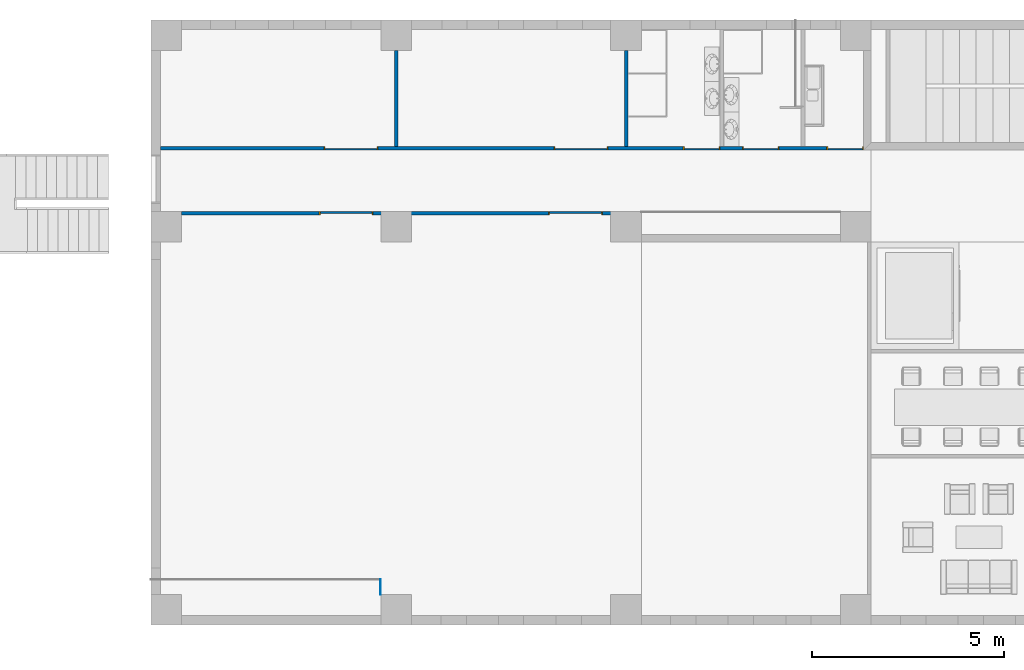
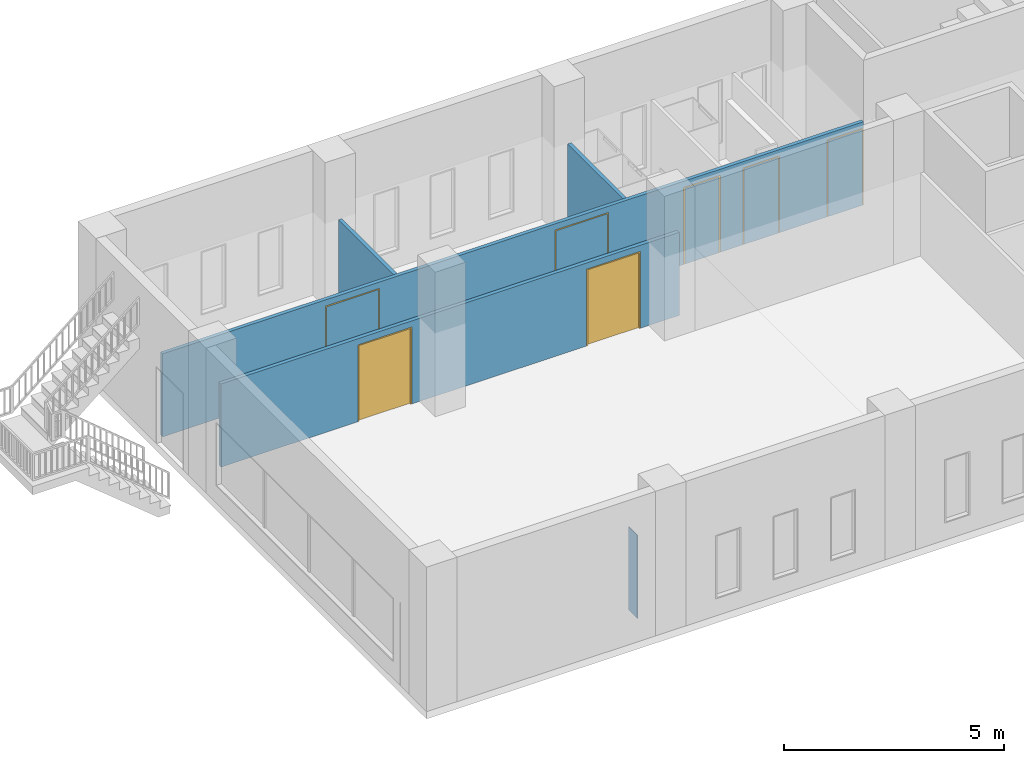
# One storey, part 2 of 17: 7 doors, 5 walls, 7 openings.
"""IFC2X3 building model written with IfcOpenShell, lengths in millimetres."""

import ifcopenshell
import ifcopenshell.guid

model = None  # the IFC model being written
_history = None  # IfcOwnerHistory: only IFC2X3 demands one
_inside = {}  # id of a spatial element -> (the spatial element, [elements in it])
_under = {}  # id of a project, library or spatial element -> (it, [spatial elements below it])
_declared = {}  # id of a project -> (the project, [libraries it declares])
_typed = {}  # id of a type object -> (the type object, [elements of that type])
_made_of = {}  # id of a material, layer set ... -> (it, [elements and type objects made of it])


def new_model(schema):
    """Start an empty IFC model of exactly this schema.

    Asked for "IFC4X3", IfcOpenShell would pick the latest addendum, in which some entities
    have other attributes; the version numbers below select the first issue.
    IFC2X3 requires an IfcOwnerHistory on every rooted entity: one is made here for all.
    """
    global model, _history
    if schema == "IFC4X3":
        model = ifcopenshell.file(schema_version=(4, 3, 0, 0))
    else:
        model = ifcopenshell.file(schema=schema)
    _inside.clear()
    _under.clear()
    _declared.clear()
    _typed.clear()
    _made_of.clear()
    _history = None
    if model.schema == "IFC2X3":
        org = make("IfcOrganization", Name="unknown")
        user = make(
            "IfcPersonAndOrganization",
            ThePerson=make("IfcPerson", FamilyName="unknown"),
            TheOrganization=org,
        )
        app = make(
            "IfcApplication",
            ApplicationDeveloper=org,
            Version="unknown",
            ApplicationFullName="unknown",
            ApplicationIdentifier="unknown",
        )
        _history = make(
            "IfcOwnerHistory",
            OwningUser=user,
            OwningApplication=app,
            ChangeAction="ADDED",
            CreationDate=0,
        )
    return model


def make(cls, **values):
    """One entity of the class cls with the attributes given. An attribute that is None is left unset."""
    return model.create_entity(
        cls, **{name: value for name, value in values.items() if value is not None}
    )


def entity(cls, *values):
    """Any entity or typed value of the class cls, its attributes in the order of the schema. None: left unset."""
    e = model.create_entity(cls)
    for i, value in enumerate(values):
        if value is not None:
            e[i] = value
    return e


def rooted(cls, **values):
    """An entity with a GlobalId (a new one), such as an element, a storey or a relation."""
    return make(cls, GlobalId=ifcopenshell.guid.new(), OwnerHistory=_history, **values)


def si_unit(unit_type, name, prefix=None):
    """IfcSIUnit, for example si_unit("LENGTHUNIT", "METRE", prefix="MILLI")."""
    return make("IfcSIUnit", UnitType=unit_type, Prefix=prefix, Name=name)


def converted_unit(unit_type, name, factor, base, dimensions=None, offset=None):
    """IfcConversionBasedUnit, such as the inch: factor (a typed value) times the base unit."""
    return make(
        "IfcConversionBasedUnit"
        if offset is None
        else "IfcConversionBasedUnitWithOffset",
        ConversionOffset=offset,
        Dimensions=None
        if dimensions is None
        else entity("IfcDimensionalExponents", *dimensions),
        UnitType=unit_type,
        Name=name,
        ConversionFactor=make(
            "IfcMeasureWithUnit", ValueComponent=factor, UnitComponent=base
        ),
    )


def assignment(units):
    """IfcUnitAssignment: the units of a project."""
    return None if units is None else make("IfcUnitAssignment", Units=units)


def point(xyz):
    """IfcCartesianPoint."""
    return None if xyz is None else make("IfcCartesianPoint", Coordinates=xyz)


def direction(xyz):
    """IfcDirection."""
    return None if xyz is None else make("IfcDirection", DirectionRatios=xyz)


def frame(location, z_axis=None, x_axis=None):
    """IfcAxis2Placement3D, a coordinate frame: its origin and axes. An axis left out is left unset."""
    return make(
        "IfcAxis2Placement3D",
        Location=point(location),
        Axis=direction(z_axis),
        RefDirection=direction(x_axis),
    )


def frame_2d(location, x_axis=None):
    """IfcAxis2Placement2D, a coordinate frame in the plane: its origin and x axis."""
    return make(
        "IfcAxis2Placement2D", Location=point(location), RefDirection=direction(x_axis)
    )


def origin_with_axes():
    """The frame at (0, 0, 0) with the z axis (0, 0, 1) and the x axis (1, 0, 0) written out."""
    return frame((0.0, 0.0, 0.0), z_axis=(0.0, 0.0, 1.0), x_axis=(1.0, 0.0, 0.0))


def origin_2d_with_axis():
    """The frame at (0, 0) in the plane with the x axis (1, 0) written out."""
    return frame_2d((0.0, 0.0), x_axis=(1.0, 0.0))


def place(relative_to, where):
    """IfcLocalPlacement: puts the frame where relative to a parent placement (None: the world)."""
    return make(
        "IfcLocalPlacement", PlacementRelTo=relative_to, RelativePlacement=where
    )


def context(
    kind, dimensions, precision=None, world=None, true_north=None, identifier=None
):
    """IfcGeometricRepresentationContext, for example the 3D "Model" context."""
    return make(
        "IfcGeometricRepresentationContext",
        ContextIdentifier=identifier,
        ContextType=kind,
        CoordinateSpaceDimension=dimensions,
        Precision=precision,
        WorldCoordinateSystem=world,
        TrueNorth=true_north,
    )


def project(units=None, contexts=None):
    """IfcProject with its units and contexts."""
    return rooted(
        "IfcProject",
        Name="project",
        RepresentationContexts=contexts,
        UnitsInContext=assignment(units),
    )


def spatial(cls, under=None, at=None, **own):
    """A site, building, storey or space (cls), placed at a placement, below another one or the project."""
    s = rooted(cls, ObjectPlacement=at, **own)
    if under is not None:
        _under.setdefault(under.id(), (under, []))[1].append(s)
    return s


def polyline(points):
    """IfcPolyline through the points."""
    return make("IfcPolyline", Points=[point(p) for p in points])


def profile(cls, at=None, kind="AREA", **sizes):
    """A parametric profile (cls). Its sizes go by their IFC names, for example OverallWidth=200.0."""
    return make(cls, ProfileType=kind, Position=at, **sizes)


def rectangle(**sizes):
    """IfcRectangleProfileDef."""
    return profile("IfcRectangleProfileDef", **sizes)


def outline(outer, holes=None, kind="AREA"):
    """IfcArbitraryClosedProfileDef: a profile drawn as a closed curve; with holes, ...WithVoids."""
    if holes is None:
        return make("IfcArbitraryClosedProfileDef", ProfileType=kind, OuterCurve=outer)
    return make(
        "IfcArbitraryProfileDefWithVoids",
        ProfileType=kind,
        OuterCurve=outer,
        InnerCurves=holes,
    )


def extrude(swept, where, along, depth):
    """IfcExtrudedAreaSolid: the profile swept, set in the frame where, extruded along a direction by depth."""
    return make(
        "IfcExtrudedAreaSolid",
        SweptArea=swept,
        Position=where,
        ExtrudedDirection=direction(along),
        Depth=depth,
    )


def faces_of(points, faces, orient=None, outer=None):
    """IfcFace entities. A face is a list of loops; a loop is a list of indices into points, from 0.

    orient and outer hold one flag for each loop. By default every Orientation is true, the
    first loop of a face is its IfcFaceOuterBound and the others are IfcFaceBound.
    """
    made = []
    for i, loops in enumerate(faces):
        bounds = []
        for j, loop in enumerate(loops):
            is_outer = j == 0 if outer is None else outer[i][j]
            bounds.append(
                make(
                    "IfcFaceOuterBound" if is_outer else "IfcFaceBound",
                    Bound=make("IfcPolyLoop", Polygon=[points[k] for k in loop]),
                    Orientation=True if orient is None else orient[i][j],
                )
            )
        made.append(make("IfcFace", Bounds=bounds))
    return made


def open_shell(faces, orient=None, outer=None):
    """The faces of one IfcOpenShell. surface_model builds it on its shared points."""
    return ("IfcOpenShell", faces, orient, outer)


def surface_model(cls, points, shells):
    """IfcFaceBasedSurfaceModel or IfcShellBasedSurfaceModel (cls): surfaces that need not close."""
    shared = [point(p) for p in points]
    made = [make(c, CfsFaces=faces_of(shared, fs, o, b)) for c, fs, o, b in shells]
    if cls == "IfcFaceBasedSurfaceModel":
        return make(cls, FbsmFaces=made)
    return make(cls, SbsmBoundary=made)


def shape(context_of_items, identifier, shape_type, items):
    """IfcShapeRepresentation: the items that make up one representation, for example the "Body"."""
    return make(
        "IfcShapeRepresentation",
        ContextOfItems=context_of_items,
        RepresentationIdentifier=identifier,
        RepresentationType=shape_type,
        Items=items,
    )


def material(Name=None, Category=None):
    """IfcMaterial."""
    return make("IfcMaterial", Name=Name, Category=Category)


def layer(
    of_material, thickness, ventilated=None, Name=None, Category=None, Priority=None
):
    """IfcMaterialLayer: one layer of a wall or slab, of a material (None: an air gap)."""
    return make(
        "IfcMaterialLayer",
        Material=of_material,
        LayerThickness=thickness,
        IsVentilated=ventilated,
        Name=Name,
        Category=Category,
        Priority=Priority,
    )


def layer_set(layers, Name=None):
    """IfcMaterialLayerSet."""
    return make("IfcMaterialLayerSet", MaterialLayers=layers, LayerSetName=Name)


def layer_usage(for_layer_set, set_direction, sense, offset, extent=None):
    """IfcMaterialLayerSetUsage: how a layer set lies in its element."""
    return make(
        "IfcMaterialLayerSetUsage",
        ForLayerSet=for_layer_set,
        LayerSetDirection=set_direction,
        DirectionSense=sense,
        OffsetFromReferenceLine=offset,
        ReferenceExtent=extent,
    )


def made_of(thing, what):
    """Note that an element or type object is made of a material, layer set ...; save() writes the relation."""
    if what is not None:
        _made_of.setdefault(what.id(), (what, []))[1].append(thing)
    return thing


def type_object(cls, material=None, **own):
    """A type object (cls), such as IfcWallType, which elements share."""
    return made_of(rooted(cls, **own), material)


def element(
    cls,
    number,
    at=None,
    inside=None,
    cuts=None,
    type_object=None,
    material=None,
    context=None,
    identifier="Body",
    shape_type=None,
    held_by="IfcProductDefinitionShape",
    body=None,
    shapes=None,
    **own,
):
    """One element of the class cls, such as IfcWall. Its Tag is "e" and its number.

    at: its placement. inside: the storey or other place that contains it. cuts: it is an
    opening in that element (IfcRelVoidsElement). A single representation is given by context,
    identifier, shape_type and body (its items); several are given by shapes. held_by: the class
    of the entity that holds the representations. save() writes the other relations.
    """
    e = rooted(cls, Tag="e%d" % number, ObjectPlacement=at, **own)
    if body is not None:
        shapes = [shape(context, identifier, shape_type, body)]
    if shapes is not None:
        e.Representation = make(held_by, Representations=shapes)
    if inside is not None:
        _inside.setdefault(inside.id(), (inside, []))[1].append(e)
    if cuts is not None:
        rooted(
            "IfcRelVoidsElement", RelatingBuildingElement=cuts, RelatedOpeningElement=e
        )
    if type_object is not None:
        _typed.setdefault(type_object.id(), (type_object, []))[1].append(e)
    return made_of(e, material)


def fill(opening, filler):
    """IfcRelFillsElement: the door or window that sits in an opening."""
    return rooted(
        "IfcRelFillsElement",
        RelatingOpeningElement=opening,
        RelatedBuildingElement=filler,
    )


def aggregate(whole, parts):
    """IfcRelAggregates: a whole, such as a stair, and the parts it consists of."""
    return rooted("IfcRelAggregates", RelatingObject=whole, RelatedObjects=parts)


def save(model, path):
    """Write the relations noted so far, then the file.

    IfcRelAggregates (storeys below a building ...), IfcRelContainedInSpatialStructure (elements
    in a storey), IfcRelDefinesByType, IfcRelAssociatesMaterial and IfcRelDeclares: one each for
    every whole, place, type object, material and project.
    """
    for whole, parts in _under.values():
        aggregate(whole, parts)
    for where, things in _inside.values():
        rooted(
            "IfcRelContainedInSpatialStructure",
            RelatedElements=things,
            RelatingStructure=where,
        )
    for kind, things in _typed.values():
        rooted("IfcRelDefinesByType", RelatedObjects=things, RelatingType=kind)
    for what, things in _made_of.values():
        rooted("IfcRelAssociatesMaterial", RelatedObjects=things, RelatingMaterial=what)
    for by, libraries in _declared.values():
        rooted("IfcRelDeclares", RelatingContext=by, RelatedDefinitions=libraries)
    model.write(path)


model = new_model("IFC2X3")

# Units and contexts
model_context = context("Model", 3, precision=1e-05, world=origin_with_axes(), true_north=direction((0.0, 1.0)))
ifc_project = project(units=[si_unit("LENGTHUNIT", "METRE", prefix="MILLI"), si_unit("AREAUNIT", "SQUARE_METRE"), si_unit("VOLUMEUNIT", "CUBIC_METRE"), converted_unit("PLANEANGLEUNIT", "DEGREE", entity("IfcPlaneAngleMeasure", 0.017453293), si_unit("PLANEANGLEUNIT", "RADIAN"), dimensions=[0, 0, 0, 0, 0, 0, 0]), si_unit("SOLIDANGLEUNIT", "STERADIAN"), si_unit("MASSUNIT", "GRAM"), si_unit("TIMEUNIT", "SECOND"), si_unit("THERMODYNAMICTEMPERATUREUNIT", "DEGREE_CELSIUS"), si_unit("LUMINOUSINTENSITYUNIT", "LUMEN")], contexts=[model_context])

# Site, building, storey
site_placement = place(None, origin_with_axes())
site = spatial("IfcSite", under=ifc_project, at=site_placement, Name="\x83T\x83C\x83g", CompositionType="ELEMENT")
building_placement = place(site_placement, origin_with_axes())
building = spatial("IfcBuilding", under=site, at=building_placement, Name="Daitec-Sample 201208", CompositionType="ELEMENT")
storey_placement = place(building_placement, origin_with_axes())
storey = spatial("IfcBuildingStorey", under=building, at=storey_placement, Name="1F", CompositionType="ELEMENT", Elevation=0.0)

# Walls
ifc_material_1 = material(Name="\x83v\x83\x89\x83X\x83^\x81[\x83{\x81[\x83h")
ifc_layer_1 = layer(ifc_material_1, 15.0, ventilated="UNKNOWN")
ifc_material_2 = material(Name="00_LGS")
ifc_layer_2 = layer(ifc_material_2, 65.0, ventilated="UNKNOWN")
ifc_layer_3 = layer(ifc_material_1, 15.0, ventilated="UNKNOWN")
ifc_layer_set_1 = layer_set([ifc_layer_1, ifc_layer_2, ifc_layer_3])
ifc_layer_usage_1 = layer_usage(ifc_layer_set_1, "AXIS2", "POSITIVE", 0.0)
wall_type_1 = type_object("IfcWallType", PredefinedType="NOTDEFINED")
wall_1_placement = place(storey_placement, frame((18455.75, 23000.0, 0.0), z_axis=(0.0, 0.0, 1.0), x_axis=(0.0, -1.0, 0.0)))
element("IfcWallStandardCase", 1, at=wall_1_placement, inside=storey, type_object=wall_type_1, material=ifc_layer_usage_1, Name="W5", context=model_context, shape_type="SweptSolid", body=[
    extrude(outline(polyline([(0.0, 0.0), (2504.8739, 0.0), (2504.8739, 95.0), (0.0, 95.0), (0.0, 0.0)])), origin_with_axes(), (0.0, 0.0, 1.0), 2300.0),
])
ifc_layer_usage_2 = layer_usage(ifc_layer_set_1, "AXIS2", "NEGATIVE", 47.5)
wall_2_placement = place(storey_placement, frame((12500.0, 23000.0, 0.0), z_axis=(0.0, 0.0, 1.0), x_axis=(0.0, -1.0, 0.0)))
element("IfcWallStandardCase", 2, at=wall_2_placement, inside=storey, type_object=wall_type_1, material=ifc_layer_usage_2, Name="W5", context=model_context, shape_type="SweptSolid", body=[
    extrude(outline(polyline([(0.0, -47.5), (2504.8739, -47.5), (2504.8739, 47.5), (0.0, 47.5), (0.0, -47.5)])), origin_with_axes(), (0.0, 0.0, 1.0), 2300.0),
])

# Wall, openings, doors
ifc_layer_usage_3 = layer_usage(ifc_layer_set_1, "AXIS2", "NEGATIVE", 0.0)
wall_3_placement = place(storey_placement, frame((6900.0, 18800.0, 0.0), z_axis=(0.0, 0.0, 1.0), x_axis=(1.0, 0.0, 0.0)))
wall_3 = element("IfcWallStandardCase", 3, at=wall_3_placement, inside=storey, type_object=wall_type_1, material=ifc_layer_usage_3, Name="W0", context=model_context, shape_type="SweptSolid", body=[
    extrude(outline(polyline([(0.0, -95.0), (12000.0, -95.0), (12000.0, 0.0), (0.0, 0.0), (0.0, -95.0)])), origin_with_axes(), (0.0, 0.0, 1.0), 2300.0),
])
opening_1_placement = place(wall_3_placement, frame((10280.415, 0.0, 0.0), z_axis=(0.0, 0.0, 1.0), x_axis=(1.0, 0.0, 0.0)))
opening_1 = element("IfcOpeningElement", 4, at=opening_1_placement, cuts=wall_3, context=model_context, shape_type="SweptSolid", body=[
    extrude(rectangle(XDim=1410.0, YDim=2130.0, at=origin_2d_with_axis()), frame((0.0, -46.5, 1065.0), z_axis=(0.0, -1.0, 0.0), x_axis=(1.0, 0.0, 0.0)), (0.0, 0.0, 1.0), 97.0),
])
opening_2_placement = place(wall_3_placement, frame((4294.0058, 0.0, 0.0), z_axis=(0.0, 0.0, 1.0), x_axis=(1.0, 0.0, 0.0)))
opening_2 = element("IfcOpeningElement", 5, at=opening_2_placement, cuts=wall_3, context=model_context, shape_type="SweptSolid", body=[
    extrude(rectangle(XDim=1410.0, YDim=2130.0, at=origin_2d_with_axis()), frame((0.0, -46.5, 1065.0), z_axis=(0.0, -1.0, 0.0), x_axis=(1.0, 0.0, 0.0)), (0.0, 0.0, 1.0), 97.0),
])
ifc_material_3 = material(Name="\x94w\x8ci")
door_style_1 = type_object("IfcDoorStyle", Name="\x90e\x8eq\x8aJ\x82«\x8cË_JX5", ConstructionType="NOTDEFINED", OperationType="NOTDEFINED", ParameterTakesPrecedence=False, Sizeable=False)
door_1_placement = place(opening_1_placement, frame((-675.0, 0.0, 0.0), z_axis=(0.0, 0.0, 1.0), x_axis=(1.0, 0.0, 0.0)))
door_1 = element("IfcDoor", 6, at=door_1_placement, inside=storey, type_object=door_style_1, material=ifc_material_3, Name="SD7", OverallHeight=2100.0, OverallWidth=1350.0, context=model_context, shape_type="SurfaceModel", body=[
    surface_model("IfcShellBasedSurfaceModel", [(900.0, -47.5, 0.0), (900.0, -47.5, 2100.0), (0.0, -47.5, 2100.0), (0.0, -47.5, 0.0)], [open_shell([[[0, 1, 2, 3]]])]),
    surface_model("IfcShellBasedSurfaceModel", [(900.0, -47.5, 0.0), (1350.0, -47.5, 0.0), (1350.0, -47.5, 2100.0), (900.0, -47.5, 2100.0)], [open_shell([[[0, 1, 2, 3]]])]),
    surface_model("IfcShellBasedSurfaceModel", [(1380.0, -95.0, 0.0), (1380.0, -95.0, 2130.0), (-30.0, -95.0, 2130.0), (-30.0, -95.0, 0.0), (0.0, -95.0, 0.0), (0.0, -95.0, 2100.0), (1350.0, -95.0, 2100.0), (1350.0, -95.0, 0.0)], [open_shell([[[0, 1, 2, 3, 4, 5, 6, 7]]])]),
    surface_model("IfcShellBasedSurfaceModel", [(1380.0, 0.0, 0.0), (1380.0, 0.0, 2130.0), (-30.0, 0.0, 2130.0), (-30.0, 0.0, 0.0), (0.0, 0.0, 0.0), (0.0, 0.0, 2100.0), (1350.0, 0.0, 2100.0), (1350.0, 0.0, 0.0)], [open_shell([[[0, 1, 2, 3, 4, 5, 6, 7]]])]),
    surface_model("IfcShellBasedSurfaceModel", [(1350.0, -95.0, 0.0), (1350.0, -95.0, 2100.0), (1350.0, 0.0, 2100.0), (1350.0, 0.0, 0.0), (0.0, -95.0, 2100.0), (0.0, 0.0, 2100.0), (1380.0, -95.0, 0.0), (1380.0, 0.0, 0.0), (0.0, -95.0, 0.0), (0.0, 0.0, 0.0), (1380.0, -95.0, 2130.0), (1380.0, 0.0, 2130.0), (-30.0, -95.0, 0.0), (-30.0, 0.0, 0.0), (-30.0, -95.0, 2130.0), (-30.0, 0.0, 2130.0)], [open_shell([[[0, 1, 2, 3]], [[1, 4, 5, 2]], [[6, 0, 3, 7]], [[4, 8, 9, 5]], [[10, 6, 7, 11]], [[8, 12, 13, 9]], [[14, 10, 11, 15]], [[12, 14, 15, 13]]])]),
])
fill(opening_1, door_1)
door_2_placement = place(opening_2_placement, frame((-675.0, 0.0, 0.0), z_axis=(0.0, 0.0, 1.0), x_axis=(1.0, 0.0, 0.0)))
door_2 = element("IfcDoor", 7, at=door_2_placement, inside=storey, type_object=door_style_1, material=ifc_material_3, Name="SD8", OverallHeight=2100.0, OverallWidth=1350.0, context=model_context, shape_type="SurfaceModel", body=[
    surface_model("IfcShellBasedSurfaceModel", [(900.0, -47.5, 0.0), (900.0, -47.5, 2100.0), (0.0, -47.5, 2100.0), (0.0, -47.5, 0.0)], [open_shell([[[0, 1, 2, 3]]])]),
    surface_model("IfcShellBasedSurfaceModel", [(900.0, -47.5, 0.0), (1350.0, -47.5, 0.0), (1350.0, -47.5, 2100.0), (900.0, -47.5, 2100.0)], [open_shell([[[0, 1, 2, 3]]])]),
    surface_model("IfcShellBasedSurfaceModel", [(1380.0, -95.0, 0.0), (1380.0, -95.0, 2130.0), (-30.0, -95.0, 2130.0), (-30.0, -95.0, 0.0), (0.0, -95.0, 0.0), (0.0, -95.0, 2100.0), (1350.0, -95.0, 2100.0), (1350.0, -95.0, 0.0)], [open_shell([[[0, 1, 2, 3, 4, 5, 6, 7]]])]),
    surface_model("IfcShellBasedSurfaceModel", [(1380.0, 0.0, 0.0), (1380.0, 0.0, 2130.0), (-30.0, 0.0, 2130.0), (-30.0, 0.0, 0.0), (0.0, 0.0, 0.0), (0.0, 0.0, 2100.0), (1350.0, 0.0, 2100.0), (1350.0, 0.0, 0.0)], [open_shell([[[0, 1, 2, 3, 4, 5, 6, 7]]])]),
    surface_model("IfcShellBasedSurfaceModel", [(1350.0, -95.0, 0.0), (1350.0, -95.0, 2100.0), (1350.0, 0.0, 2100.0), (1350.0, 0.0, 0.0), (0.0, -95.0, 2100.0), (0.0, 0.0, 2100.0), (1380.0, -95.0, 0.0), (1380.0, 0.0, 0.0), (0.0, -95.0, 0.0), (0.0, 0.0, 0.0), (1380.0, -95.0, 2130.0), (1380.0, 0.0, 2130.0), (-30.0, -95.0, 0.0), (-30.0, 0.0, 0.0), (-30.0, -95.0, 2130.0), (-30.0, 0.0, 2130.0)], [open_shell([[[0, 1, 2, 3]], [[1, 4, 5, 2]], [[6, 0, 3, 7]], [[4, 8, 9, 5]], [[10, 6, 7, 11]], [[8, 12, 13, 9]], [[14, 10, 11, 15]], [[12, 14, 15, 13]]])]),
])
fill(opening_2, door_2)

ifc_layer_usage_4 = layer_usage(ifc_layer_set_1, "AXIS2", "NEGATIVE", 47.5)
wall_4_placement = place(storey_placement, frame((6100.0, 20447.626, 0.0), z_axis=(0.0, 0.0, 1.0), x_axis=(1.0, 0.0, 0.0)))
wall_4 = element("IfcWallStandardCase", 8, at=wall_4_placement, inside=storey, type_object=wall_type_1, material=ifc_layer_usage_4, Name="W3", context=model_context, shape_type="SweptSolid", body=[
    extrude(outline(polyline([(250.0, -47.5), (18600.0, -47.5), (18600.0, 47.5), (250.0, 47.5), (250.0, -47.5)])), origin_with_axes(), (0.0, 0.0, 1.0), 2300.0),
])
opening_3_placement = place(wall_4_placement, frame((15921.338, 0.0, 0.0), z_axis=(0.0, 0.0, 1.0), x_axis=(1.0, 0.0, 0.0)))
opening_3 = element("IfcOpeningElement", 9, at=opening_3_placement, cuts=wall_4, context=model_context, shape_type="SweptSolid", body=[
    extrude(rectangle(XDim=960.0, YDim=2130.0, at=origin_2d_with_axis()), frame((0.0, 96.0, 1065.0), z_axis=(0.0, -1.0, 0.0), x_axis=(1.0, 0.0, 0.0)), (0.0, 0.0, 1.0), 97.0),
])
opening_4_placement = place(wall_4_placement, frame((14373.782, 0.0, 0.0), z_axis=(0.0, 0.0, 1.0), x_axis=(1.0, 0.0, 0.0)))
opening_4 = element("IfcOpeningElement", 10, at=opening_4_placement, cuts=wall_4, context=model_context, shape_type="SweptSolid", body=[
    extrude(rectangle(XDim=960.0, YDim=2130.0, at=origin_2d_with_axis()), frame((0.0, 96.0, 1065.0), z_axis=(0.0, -1.0, 0.0), x_axis=(1.0, 0.0, 0.0)), (0.0, 0.0, 1.0), 97.0),
])
opening_5_placement = place(wall_4_placement, frame((11223.832, 0.0, 0.0), z_axis=(0.0, 0.0, 1.0), x_axis=(1.0, 0.0, 0.0)))
opening_5 = element("IfcOpeningElement", 11, at=opening_5_placement, cuts=wall_4, context=model_context, shape_type="SweptSolid", body=[
    extrude(rectangle(XDim=1410.0, YDim=2130.0, at=origin_2d_with_axis()), frame((0.0, 96.0, 1065.0), z_axis=(0.0, -1.0, 0.0), x_axis=(1.0, 0.0, 0.0)), (0.0, 0.0, 1.0), 97.0),
])
opening_6_placement = place(wall_4_placement, frame((5220.7883, 0.0, 0.0), z_axis=(0.0, 0.0, 1.0), x_axis=(1.0, 0.0, 0.0)))
opening_6 = element("IfcOpeningElement", 12, at=opening_6_placement, cuts=wall_4, context=model_context, shape_type="SweptSolid", body=[
    extrude(rectangle(XDim=1410.0, YDim=2130.0, at=origin_2d_with_axis()), frame((0.0, 96.0, 1065.0), z_axis=(0.0, -1.0, 0.0), x_axis=(1.0, 0.0, 0.0)), (0.0, 0.0, 1.0), 97.0),
])
opening_7_placement = place(wall_4_placement, frame((18120.013, 0.0, 0.0), z_axis=(0.0, 0.0, 1.0), x_axis=(1.0, 0.0, 0.0)))
opening_7 = element("IfcOpeningElement", 13, at=opening_7_placement, cuts=wall_4, context=model_context, shape_type="SweptSolid", body=[
    extrude(rectangle(XDim=960.0, YDim=2130.0, at=origin_2d_with_axis()), frame((0.0, 96.0, 1065.0), z_axis=(0.0, -1.0, 0.0), x_axis=(1.0, 0.0, 0.0)), (0.0, 0.0, 1.0), 97.0),
])
door_3_placement = place(opening_5_placement, frame((675.0, 0.0, 0.0), z_axis=(0.0, 0.0, 1.0), x_axis=(-1.0, 0.0, 0.0)))
door_3 = element("IfcDoor", 14, at=door_3_placement, inside=storey, type_object=door_style_1, material=ifc_material_3, Name="SD9", OverallHeight=2100.0, OverallWidth=1350.0, context=model_context, shape_type="SurfaceModel", body=[
    surface_model("IfcShellBasedSurfaceModel", [(450.0, 0.0, 0.0), (1350.0, 0.0, 0.0), (1350.0, 0.0, 2100.0), (450.0, 0.0, 2100.0)], [open_shell([[[0, 1, 2, 3]]])]),
    surface_model("IfcShellBasedSurfaceModel", [(450.0, 0.0, 0.0), (450.0, 0.0, 2100.0), (0.0, 0.0, 2100.0), (0.0, 0.0, 0.0)], [open_shell([[[0, 1, 2, 3]]])]),
    surface_model("IfcShellBasedSurfaceModel", [(-30.0, -47.5, 0.0), (0.0, -47.5, 0.0), (0.0, -47.5, 2100.0), (1350.0, -47.5, 2100.0), (1350.0, -47.5, 0.0), (1380.0, -47.5, 0.0), (1380.0, -47.5, 2130.0), (-30.0, -47.5, 2130.0)], [open_shell([[[0, 1, 2, 3, 4, 5, 6, 7]]])]),
    surface_model("IfcShellBasedSurfaceModel", [(-30.0, 47.5, 0.0), (0.0, 47.5, 0.0), (0.0, 47.5, 2100.0), (1350.0, 47.5, 2100.0), (1350.0, 47.5, 0.0), (1380.0, 47.5, 0.0), (1380.0, 47.5, 2130.0), (-30.0, 47.5, 2130.0)], [open_shell([[[0, 1, 2, 3, 4, 5, 6, 7]]])]),
    surface_model("IfcShellBasedSurfaceModel", [(0.0, -47.5, 0.0), (0.0, 47.5, 0.0), (0.0, 47.5, 2100.0), (0.0, -47.5, 2100.0), (-30.0, -47.5, 0.0), (-30.0, 47.5, 0.0), (1350.0, 47.5, 2100.0), (1350.0, -47.5, 2100.0), (-30.0, -47.5, 2130.0), (-30.0, 47.5, 2130.0), (1350.0, 47.5, 0.0), (1350.0, -47.5, 0.0), (1380.0, -47.5, 2130.0), (1380.0, 47.5, 2130.0), (1380.0, 47.5, 0.0), (1380.0, -47.5, 0.0)], [open_shell([[[0, 1, 2, 3]], [[4, 5, 1, 0]], [[3, 2, 6, 7]], [[8, 9, 5, 4]], [[7, 6, 10, 11]], [[12, 13, 9, 8]], [[11, 10, 14, 15]], [[15, 14, 13, 12]]])]),
])
fill(opening_5, door_3)
door_4_placement = place(opening_6_placement, frame((675.0, 0.0, 0.0), z_axis=(0.0, 0.0, 1.0), x_axis=(-1.0, 0.0, 0.0)))
door_4 = element("IfcDoor", 15, at=door_4_placement, inside=storey, type_object=door_style_1, material=ifc_material_3, Name="SD0", OverallHeight=2100.0, OverallWidth=1350.0, context=model_context, shape_type="SurfaceModel", body=[
    surface_model("IfcShellBasedSurfaceModel", [(450.0, 0.0, 0.0), (1350.0, 0.0, 0.0), (1350.0, 0.0, 2100.0), (450.0, 0.0, 2100.0)], [open_shell([[[0, 1, 2, 3]]])]),
    surface_model("IfcShellBasedSurfaceModel", [(450.0, 0.0, 0.0), (450.0, 0.0, 2100.0), (0.0, 0.0, 2100.0), (0.0, 0.0, 0.0)], [open_shell([[[0, 1, 2, 3]]])]),
    surface_model("IfcShellBasedSurfaceModel", [(-30.0, -47.5, 0.0), (0.0, -47.5, 0.0), (0.0, -47.5, 2100.0), (1350.0, -47.5, 2100.0), (1350.0, -47.5, 0.0), (1380.0, -47.5, 0.0), (1380.0, -47.5, 2130.0), (-30.0, -47.5, 2130.0)], [open_shell([[[0, 1, 2, 3, 4, 5, 6, 7]]])]),
    surface_model("IfcShellBasedSurfaceModel", [(-30.0, 47.5, 0.0), (0.0, 47.5, 0.0), (0.0, 47.5, 2100.0), (1350.0, 47.5, 2100.0), (1350.0, 47.5, 0.0), (1380.0, 47.5, 0.0), (1380.0, 47.5, 2130.0), (-30.0, 47.5, 2130.0)], [open_shell([[[0, 1, 2, 3, 4, 5, 6, 7]]])]),
    surface_model("IfcShellBasedSurfaceModel", [(0.0, -47.5, 0.0), (0.0, 47.5, 0.0), (0.0, 47.5, 2100.0), (0.0, -47.5, 2100.0), (-30.0, -47.5, 0.0), (-30.0, 47.5, 0.0), (1350.0, 47.5, 2100.0), (1350.0, -47.5, 2100.0), (-30.0, -47.5, 2130.0), (-30.0, 47.5, 2130.0), (1350.0, 47.5, 0.0), (1350.0, -47.5, 0.0), (1380.0, -47.5, 2130.0), (1380.0, 47.5, 2130.0), (1380.0, 47.5, 0.0), (1380.0, -47.5, 0.0)], [open_shell([[[0, 1, 2, 3]], [[4, 5, 1, 0]], [[3, 2, 6, 7]], [[8, 9, 5, 4]], [[7, 6, 10, 11]], [[12, 13, 9, 8]], [[11, 10, 14, 15]], [[15, 14, 13, 12]]])]),
])
fill(opening_6, door_4)
door_style_2 = type_object("IfcDoorStyle", ConstructionType="NOTDEFINED", OperationType="NOTDEFINED", ParameterTakesPrecedence=False, Sizeable=False)
door_5_placement = place(opening_3_placement, frame((-450.0, 0.0, 0.0), z_axis=(0.0, 0.0, 1.0), x_axis=(1.0, 0.0, 0.0)))
door_5 = element("IfcDoor", 16, at=door_5_placement, inside=storey, type_object=door_style_2, material=ifc_material_3, Name="SD3", OverallHeight=2100.0, OverallWidth=900.0, context=model_context, shape_type="SurfaceModel", body=[
    surface_model("IfcShellBasedSurfaceModel", [(900.0, 0.0, 0.0), (0.0, 0.0, 0.0), (0.0, 0.0, 2100.0), (900.0, 0.0, 2100.0)], [open_shell([[[0, 1, 2, 3]]])]),
    surface_model("IfcShellBasedSurfaceModel", [(930.0, 47.5, 0.0), (900.0, 47.5, 0.0), (900.0, 47.5, 2100.0), (0.0, 47.5, 2100.0), (0.0, 47.5, 0.0), (-30.0, 47.5, 0.0), (-30.0, 47.5, 2130.0), (930.0, 47.5, 2130.0)], [open_shell([[[0, 1, 2, 3, 4, 5, 6, 7]]])]),
    surface_model("IfcShellBasedSurfaceModel", [(930.0, -47.5, 0.0), (900.0, -47.5, 0.0), (900.0, -47.5, 2100.0), (0.0, -47.5, 2100.0), (0.0, -47.5, 0.0), (-30.0, -47.5, 0.0), (-30.0, -47.5, 2130.0), (930.0, -47.5, 2130.0)], [open_shell([[[0, 1, 2, 3, 4, 5, 6, 7]]])]),
    surface_model("IfcShellBasedSurfaceModel", [(900.0, 47.5, 0.0), (900.0, -47.5, 0.0), (900.0, -47.5, 2100.0), (900.0, 47.5, 2100.0), (930.0, 47.5, 0.0), (930.0, -47.5, 0.0), (0.0, -47.5, 2100.0), (0.0, 47.5, 2100.0), (930.0, 47.5, 2130.0), (930.0, -47.5, 2130.0), (0.0, -47.5, 0.0), (0.0, 47.5, 0.0), (-30.0, 47.5, 2130.0), (-30.0, -47.5, 2130.0), (-30.0, -47.5, 0.0), (-30.0, 47.5, 0.0)], [open_shell([[[0, 1, 2, 3]], [[4, 5, 1, 0]], [[3, 2, 6, 7]], [[8, 9, 5, 4]], [[7, 6, 10, 11]], [[12, 13, 9, 8]], [[11, 10, 14, 15]], [[15, 14, 13, 12]]])]),
])
fill(opening_3, door_5)
door_6_placement = place(opening_4_placement, frame((450.0, 0.0, 0.0), z_axis=(0.0, 0.0, 1.0), x_axis=(-1.0, 0.0, 0.0)))
door_6 = element("IfcDoor", 17, at=door_6_placement, inside=storey, type_object=door_style_2, material=ifc_material_3, Name="SD4", OverallHeight=2100.0, OverallWidth=900.0, context=model_context, shape_type="SurfaceModel", body=[
    surface_model("IfcShellBasedSurfaceModel", [(0.0, 0.0, 0.0), (900.0, 0.0, 0.0), (900.0, 0.0, 2100.0), (0.0, 0.0, 2100.0)], [open_shell([[[0, 1, 2, 3]]])]),
    surface_model("IfcShellBasedSurfaceModel", [(-30.0, -47.5, 0.0), (0.0, -47.5, 0.0), (0.0, -47.5, 2100.0), (900.0, -47.5, 2100.0), (900.0, -47.5, 0.0), (930.0, -47.5, 0.0), (930.0, -47.5, 2130.0), (-30.0, -47.5, 2130.0)], [open_shell([[[0, 1, 2, 3, 4, 5, 6, 7]]])]),
    surface_model("IfcShellBasedSurfaceModel", [(-30.0, 47.5, 0.0), (0.0, 47.5, 0.0), (0.0, 47.5, 2100.0), (900.0, 47.5, 2100.0), (900.0, 47.5, 0.0), (930.0, 47.5, 0.0), (930.0, 47.5, 2130.0), (-30.0, 47.5, 2130.0)], [open_shell([[[0, 1, 2, 3, 4, 5, 6, 7]]])]),
    surface_model("IfcShellBasedSurfaceModel", [(0.0, -47.5, 0.0), (0.0, 47.5, 0.0), (0.0, 47.5, 2100.0), (0.0, -47.5, 2100.0), (-30.0, -47.5, 0.0), (-30.0, 47.5, 0.0), (900.0, 47.5, 2100.0), (900.0, -47.5, 2100.0), (-30.0, -47.5, 2130.0), (-30.0, 47.5, 2130.0), (900.0, 47.5, 0.0), (900.0, -47.5, 0.0), (930.0, -47.5, 2130.0), (930.0, 47.5, 2130.0), (930.0, 47.5, 0.0), (930.0, -47.5, 0.0)], [open_shell([[[0, 1, 2, 3]], [[4, 5, 1, 0]], [[3, 2, 6, 7]], [[8, 9, 5, 4]], [[7, 6, 10, 11]], [[12, 13, 9, 8]], [[11, 10, 14, 15]], [[15, 14, 13, 12]]])]),
])
fill(opening_4, door_6)
door_style_3 = type_object("IfcDoorStyle", ConstructionType="NOTDEFINED", OperationType="NOTDEFINED", ParameterTakesPrecedence=False, Sizeable=False)
door_7_placement = place(opening_7_placement, frame((450.0, 0.0, 0.0), z_axis=(0.0, 0.0, 1.0), x_axis=(-1.0, 0.0, 0.0)))
door_7 = element("IfcDoor", 18, at=door_7_placement, inside=storey, type_object=door_style_3, material=ifc_material_3, Name="SD9", OverallHeight=2100.0, OverallWidth=900.0, context=model_context, shape_type="SurfaceModel", body=[
    surface_model("IfcShellBasedSurfaceModel", [(-30.0, -47.5, 0.0), (0.0, -47.5, 0.0), (0.0, -47.5, 2100.0), (900.0, -47.5, 2100.0), (900.0, -47.5, 0.0), (930.0, -47.5, 0.0), (930.0, -47.5, 2130.0), (-30.0, -47.5, 2130.0)], [open_shell([[[0, 1, 2, 3, 4, 5, 6, 7]]])]),
    surface_model("IfcShellBasedSurfaceModel", [(-30.0, 47.5, 0.0), (0.0, 47.5, 0.0), (0.0, 47.5, 2100.0), (900.0, 47.5, 2100.0), (900.0, 47.5, 0.0), (930.0, 47.5, 0.0), (930.0, 47.5, 2130.0), (-30.0, 47.5, 2130.0)], [open_shell([[[0, 1, 2, 3, 4, 5, 6, 7]]])]),
    surface_model("IfcShellBasedSurfaceModel", [(0.0, -47.5, 0.0), (0.0, 47.5, 0.0), (0.0, 47.5, 2100.0), (0.0, -47.5, 2100.0), (-30.0, -47.5, 0.0), (-30.0, 47.5, 0.0), (900.0, 47.5, 2100.0), (900.0, -47.5, 2100.0), (-30.0, -47.5, 2130.0), (-30.0, 47.5, 2130.0), (900.0, 47.5, 0.0), (900.0, -47.5, 0.0), (930.0, -47.5, 2130.0), (930.0, 47.5, 2130.0), (930.0, 47.5, 0.0), (930.0, -47.5, 0.0)], [open_shell([[[0, 1, 2, 3]], [[4, 5, 1, 0]], [[3, 2, 6, 7]], [[8, 9, 5, 4]], [[7, 6, 10, 11]], [[12, 13, 9, 8]], [[11, 10, 14, 15]], [[15, 14, 13, 12]]])]),
])
fill(opening_7, door_7)

# Wall
ifc_material_4 = material(Name="\x83R\x83\x93\x83N\x83\x8a\x81[\x83g-\x8cy\x97Ê")
ifc_layer_4 = layer(ifc_material_4, 20.0, ventilated="UNKNOWN")
ifc_layer_set_2 = layer_set([ifc_layer_4], Name="\x83R\x83\x93\x83N\x83\x8a\x81[\x83g-\x8cy\x97Ê 20")
ifc_layer_usage_5 = layer_usage(ifc_layer_set_2, "AXIS2", "NEGATIVE", 0.0)
wall_type_2 = type_object("IfcWallType", Name="\x83R\x83\x93\x83N\x83\x8a\x81[\x83g-\x8cy\x97Ê 20", PredefinedType="NOTDEFINED")
wall_5_placement = place(storey_placement, frame((12100.0, 9200.0, 0.0), z_axis=(0.0, 0.0, 1.0), x_axis=(0.0, -1.0, 0.0)))
element("IfcWallStandardCase", 19, at=wall_5_placement, inside=storey, type_object=wall_type_2, material=ifc_layer_usage_5, Name="W3", context=model_context, shape_type="SweptSolid", body=[
    extrude(outline(polyline([(0.0, -20.0), (400.0, -20.0), (400.0, 0.0), (0.0, 0.0), (0.0, -20.0)])), origin_with_axes(), (0.0, 0.0, 1.0), 2300.0),
])

save(model, "model.ifc")
